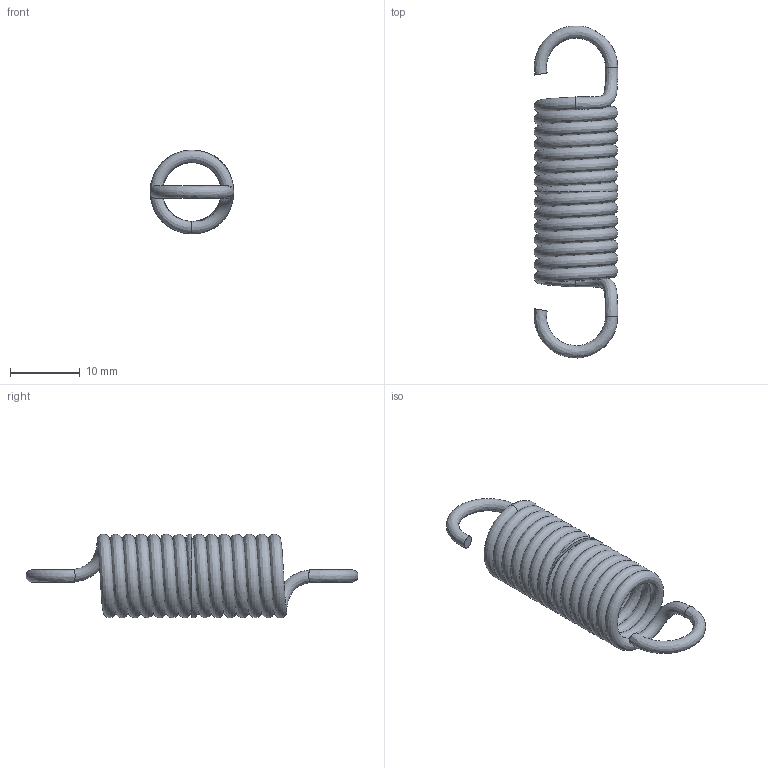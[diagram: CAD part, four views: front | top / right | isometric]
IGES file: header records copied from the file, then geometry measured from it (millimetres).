
Global section: file name: T21510; native system: Autodesk Inventor 2026; preprocessor: unknown; author: J. Iwanek; date: 20261005.101736; units: millimetre
Bounding box: 11.98 x 47.57 x 12 mm (x, y, z)
Volume: 1293.8 mm3; surface area: 2889.6 mm2
Topology: 1 solids, 1 shells, 10 faces, 32 edges, 20 vertices
Faces by surface type: bspline 10
